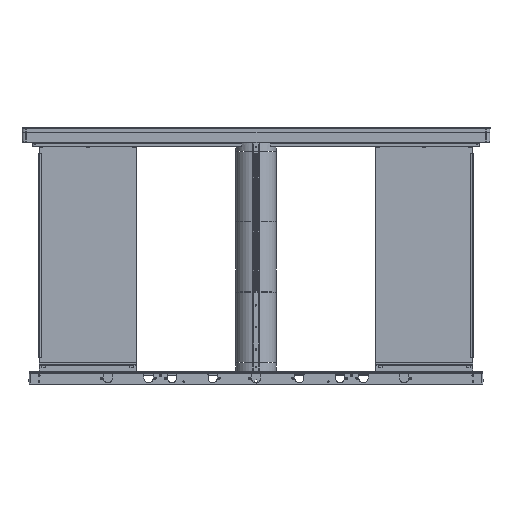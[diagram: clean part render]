
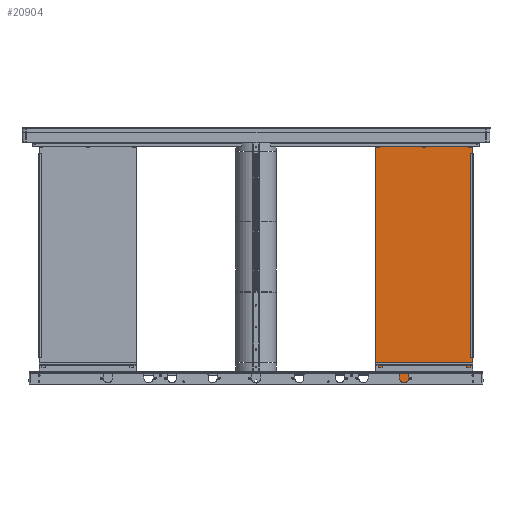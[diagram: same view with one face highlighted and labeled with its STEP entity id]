
A CAD part, top view. The second image highlights one B-rep face of the part: STEP entity #20904.
In plain terms, the highlighted planar face has unit normal (0, 0, 1) as drawn and (0, 0, -1) by its records, which use the part's own axes.
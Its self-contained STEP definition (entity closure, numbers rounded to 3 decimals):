
#1042 = CIRCLE ( 'NONE', #45229, 7.5 ) ;
#1463 = AXIS2_PLACEMENT_3D ( 'NONE', #29467, #65800, #77679 ) ;
#2310 = CIRCLE ( 'NONE', #38962, 7.5 ) ;
#3531 = EDGE_CURVE ( 'NONE', #16964, #73130, #50304, .T. ) ;
#3599 = ORIENTED_EDGE ( 'NONE', *, *, #57492, .T. ) ;
#4452 = LINE ( 'NONE', #41215, #40430 ) ;
#6237 = CIRCLE ( 'NONE', #56736, 7.5 ) ;
#6956 = DIRECTION ( 'NONE',  ( 0., 0., 1. ) ) ;
#7154 = ORIENTED_EDGE ( 'NONE', *, *, #25617, .T. ) ;
#7476 = EDGE_CURVE ( 'NONE', #24163, #16964, #17931, .T. ) ;
#7584 = CARTESIAN_POINT ( 'NONE',  ( -117.5, -427., -6. ) ) ;
#10261 = DIRECTION ( 'NONE',  ( 0., 0., 1. ) ) ;
#11241 = PLANE ( 'NONE',  #1463 ) ;
#12148 = VERTEX_POINT ( 'NONE', #59284 ) ;
#12763 = CARTESIAN_POINT ( 'NONE',  ( 184., -457.5, -6. ) ) ;
#13949 = DIRECTION ( 'NONE',  ( 0., 0., 1. ) ) ;
#15520 = CARTESIAN_POINT ( 'NONE',  ( 184., -457., -6. ) ) ;
#15737 = ORIENTED_EDGE ( 'NONE', *, *, #3531, .T. ) ;
#16796 = DIRECTION ( 'NONE',  ( 1., 0., 0. ) ) ;
#16931 = EDGE_CURVE ( 'NONE', #21395, #45407, #48703, .T. ) ;
#16964 = VERTEX_POINT ( 'NONE', #56725 ) ;
#17020 = DIRECTION ( 'NONE',  ( -1., 0., 0. ) ) ;
#17387 = EDGE_CURVE ( 'NONE', #72632, #12148, #2310, .T. ) ;
#17931 = LINE ( 'NONE', #59835, #48996 ) ;
#17986 = VERTEX_POINT ( 'NONE', #76593 ) ;
#18138 = VECTOR ( 'NONE', #17020, 1000. ) ;
#18577 = CARTESIAN_POINT ( 'NONE',  ( -125., -427., -6. ) ) ;
#19525 = CARTESIAN_POINT ( 'NONE',  ( 125., -427., -6. ) ) ;
#19590 = EDGE_LOOP ( 'NONE', ( #37705, #65788, #15737, #57746 ) ) ;
#19750 = CARTESIAN_POINT ( 'NONE',  ( -7.5, -427., -6. ) ) ;
#20783 = CIRCLE ( 'NONE', #29583, 7.5 ) ;
#20840 = EDGE_CURVE ( 'NONE', #63004, #17986, #38100, .T. ) ;
#20904 = ADVANCED_FACE ( 'NONE', ( #65428, #47633, #58715, #77276 ), #11241, .F. ) ;
#21395 = VERTEX_POINT ( 'NONE', #49469 ) ;
#22861 = EDGE_CURVE ( 'NONE', #73130, #68085, #75940, .T. ) ;
#23007 = EDGE_LOOP ( 'NONE', ( #59034, #24511 ) ) ;
#23557 = EDGE_LOOP ( 'NONE', ( #34667, #3599 ) ) ;
#24163 = VERTEX_POINT ( 'NONE', #64884 ) ;
#24511 = ORIENTED_EDGE ( 'NONE', *, *, #16931, .T. ) ;
#25617 = EDGE_CURVE ( 'NONE', #17986, #63004, #1042, .T. ) ;
#26157 = AXIS2_PLACEMENT_3D ( 'NONE', #66686, #6956, #55189 ) ;
#27006 = DIRECTION ( 'NONE',  ( 1., 0., 0. ) ) ;
#28592 = DIRECTION ( 'NONE',  ( 0., 1., 0. ) ) ;
#29467 = CARTESIAN_POINT ( 'NONE',  ( -185., -457.5, -6. ) ) ;
#29583 = AXIS2_PLACEMENT_3D ( 'NONE', #77013, #65536, #40253 ) ;
#32552 = DIRECTION ( 'NONE',  ( 0., -1., 0. ) ) ;
#34667 = ORIENTED_EDGE ( 'NONE', *, *, #17387, .T. ) ;
#35591 = ORIENTED_EDGE ( 'NONE', *, *, #20840, .T. ) ;
#36269 = EDGE_LOOP ( 'NONE', ( #7154, #35591 ) ) ;
#37705 = ORIENTED_EDGE ( 'NONE', *, *, #74386, .T. ) ;
#38100 = CIRCLE ( 'NONE', #56999, 7.5 ) ;
#38962 = AXIS2_PLACEMENT_3D ( 'NONE', #19525, #13949, #27006 ) ;
#40253 = DIRECTION ( 'NONE',  ( 1., 0., 0. ) ) ;
#40430 = VECTOR ( 'NONE', #28592, 1000. ) ;
#41215 = CARTESIAN_POINT ( 'NONE',  ( -184., -457.5, -6. ) ) ;
#43723 = CARTESIAN_POINT ( 'NONE',  ( 117.5, -427., -6. ) ) ;
#45229 = AXIS2_PLACEMENT_3D ( 'NONE', #18577, #67216, #73910 ) ;
#45407 = VERTEX_POINT ( 'NONE', #19750 ) ;
#45740 = EDGE_CURVE ( 'NONE', #45407, #21395, #20783, .T. ) ;
#46645 = DIRECTION ( 'NONE',  ( 1., 0., 0. ) ) ;
#47633 = FACE_BOUND ( 'NONE', #23007, .T. ) ;
#48703 = CIRCLE ( 'NONE', #26157, 7.5 ) ;
#48996 = VECTOR ( 'NONE', #77637, 1000. ) ;
#49469 = CARTESIAN_POINT ( 'NONE',  ( 7.5, -427., -6. ) ) ;
#50304 = LINE ( 'NONE', #12763, #57299 ) ;
#51664 = CARTESIAN_POINT ( 'NONE',  ( -184., -457., -6. ) ) ;
#52976 = CARTESIAN_POINT ( 'NONE',  ( -185., -457., -6. ) ) ;
#55189 = DIRECTION ( 'NONE',  ( 1., 0., 0. ) ) ;
#56725 = CARTESIAN_POINT ( 'NONE',  ( 184., 457., -6. ) ) ;
#56736 = AXIS2_PLACEMENT_3D ( 'NONE', #64449, #10261, #46645 ) ;
#56999 = AXIS2_PLACEMENT_3D ( 'NONE', #64264, #70971, #16796 ) ;
#57299 = VECTOR ( 'NONE', #32552, 1000. ) ;
#57492 = EDGE_CURVE ( 'NONE', #12148, #72632, #6237, .T. ) ;
#57746 = ORIENTED_EDGE ( 'NONE', *, *, #22861, .T. ) ;
#58715 = FACE_BOUND ( 'NONE', #36269, .T. ) ;
#59034 = ORIENTED_EDGE ( 'NONE', *, *, #45740, .T. ) ;
#59284 = CARTESIAN_POINT ( 'NONE',  ( 132.5, -427., -6. ) ) ;
#59835 = CARTESIAN_POINT ( 'NONE',  ( -185., 457., -6. ) ) ;
#63004 = VERTEX_POINT ( 'NONE', #7584 ) ;
#64264 = CARTESIAN_POINT ( 'NONE',  ( -125., -427., -6. ) ) ;
#64449 = CARTESIAN_POINT ( 'NONE',  ( 125., -427., -6. ) ) ;
#64884 = CARTESIAN_POINT ( 'NONE',  ( -184., 457., -6. ) ) ;
#65428 = FACE_BOUND ( 'NONE', #23557, .T. ) ;
#65536 = DIRECTION ( 'NONE',  ( 0., 0., 1. ) ) ;
#65788 = ORIENTED_EDGE ( 'NONE', *, *, #7476, .T. ) ;
#65800 = DIRECTION ( 'NONE',  ( 0., 0., 1. ) ) ;
#66686 = CARTESIAN_POINT ( 'NONE',  ( 0., -427., -6. ) ) ;
#67216 = DIRECTION ( 'NONE',  ( 0., 0., 1. ) ) ;
#68085 = VERTEX_POINT ( 'NONE', #51664 ) ;
#70971 = DIRECTION ( 'NONE',  ( 0., 0., 1. ) ) ;
#72632 = VERTEX_POINT ( 'NONE', #43723 ) ;
#73130 = VERTEX_POINT ( 'NONE', #15520 ) ;
#73910 = DIRECTION ( 'NONE',  ( 1., 0., 0. ) ) ;
#74386 = EDGE_CURVE ( 'NONE', #68085, #24163, #4452, .T. ) ;
#75940 = LINE ( 'NONE', #52976, #18138 ) ;
#76593 = CARTESIAN_POINT ( 'NONE',  ( -132.5, -427., -6. ) ) ;
#77013 = CARTESIAN_POINT ( 'NONE',  ( 0., -427., -6. ) ) ;
#77276 = FACE_OUTER_BOUND ( 'NONE', #19590, .T. ) ;
#77637 = DIRECTION ( 'NONE',  ( 1., 0., 0. ) ) ;
#77679 = DIRECTION ( 'NONE',  ( 1., 0., 0. ) ) ;
